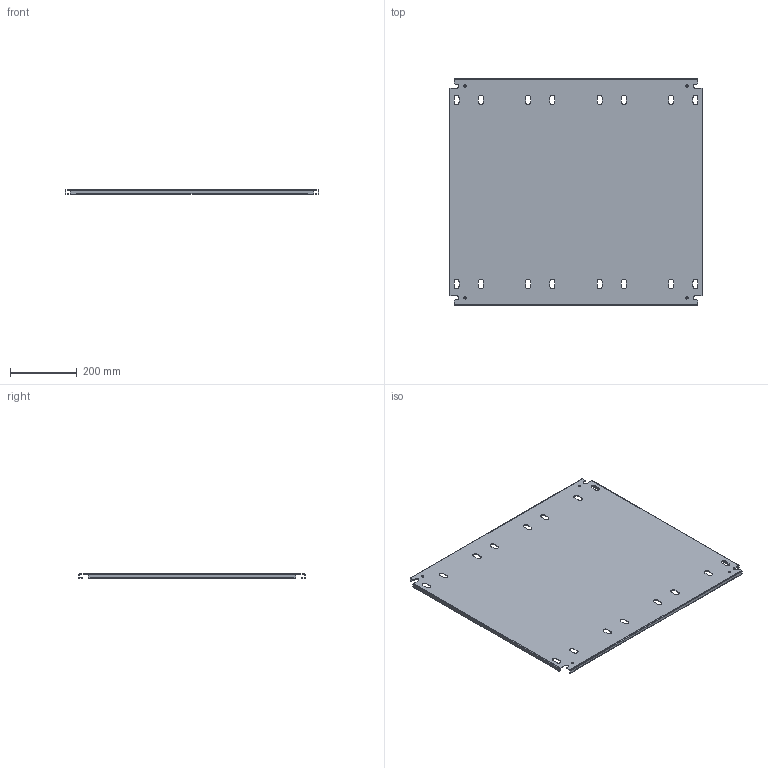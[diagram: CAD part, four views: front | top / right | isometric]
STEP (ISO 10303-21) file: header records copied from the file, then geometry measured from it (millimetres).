
FILE_DESCRIPTION(/* description */ ('1412BTSSCU 29.975" x 26.75" Left Inner Panel'),/* implementation_level */ '2;1');
FILE_NAME(/* name */ 'C:\Vault_Workspace\Inventor_Dwg\BoxCad\Result\1412BTSSCU112504\e-mail\3D\1412BTSSCU112504IP1.stp',/* time_stamp */ '2022-09-22T18:35:49-04:00',/* author */ ('BoxCad'),/* organization */ (''),/* preprocessor_version */ 'ST-DEVELOPER v18.1',/* originating_system */ 'Autodesk Inventor 2020',/* authorisation */ '');
FILE_SCHEMA (('AUTOMOTIVE_DESIGN { 1 0 10303 214 3 1 1 }'));
Length unit declared in the file: inch
Products named in the file (2): 1412BTSSCU112504IP1; 1412BTSSCU112504IP1-P
Assembly tree (1 placements, depth 2):
  1412BTSSCU112504IP1
    1412BTSSCU112504IP1-P
Bounding box: 761.37 x 679.45 x 13 mm (x, y, z)
Volume: 964399.3 mm3; surface area: 1124372.5 mm2
Topology: 1 solids, 1 shells, 174 faces, 516 edges, 344 vertices
Faces by surface type: plane 98, cylinder 76
Full cylindrical faces by diameter (mm): 7.366 x4
Entity records: 6001 total; most frequent: CARTESIAN_POINT 1037, ORIENTED_EDGE 1032, DIRECTION 1022, EDGE_CURVE 516, LINE 364, VECTOR 364, VERTEX_POINT 344, AXIS2_PLACEMENT_3D 329
